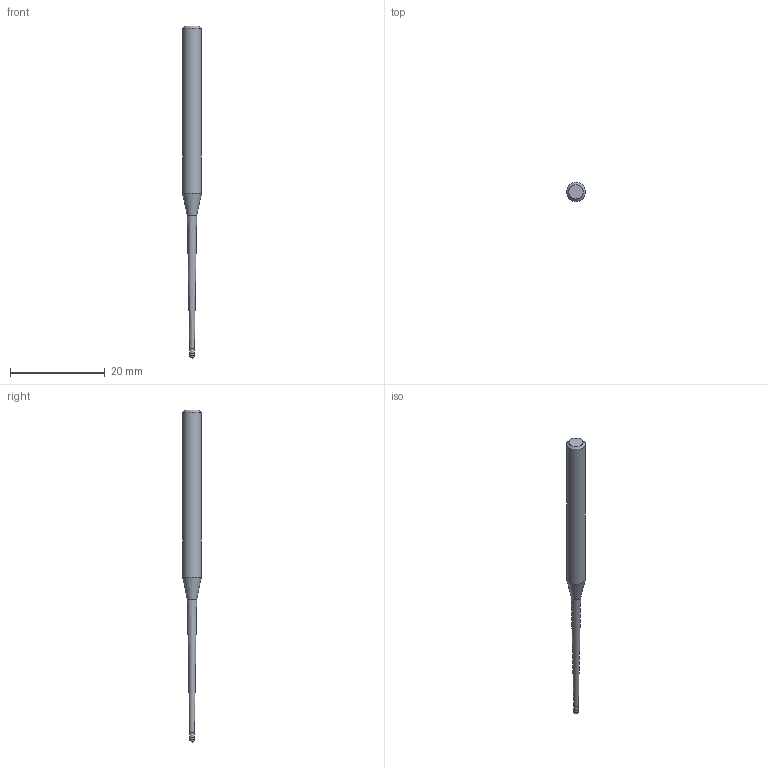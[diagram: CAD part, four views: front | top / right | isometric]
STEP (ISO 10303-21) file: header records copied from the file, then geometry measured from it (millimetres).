
FILE_DESCRIPTION((''),'2;1');
FILE_NAME('C:\Users\nsx150\AppData\Local\Temp\Mastercam 2021\SNAKH10GOD\TEMP.step','2021-10-21T13:32:11',(''),(''),'STEP Write','Mastercam 2021 ... CNC Software, Inc.','');
FILE_SCHEMA(('AUTOMOTIVE_DESIGN'));
Length unit declared in the file: millimetre
Products named in the file (1): None
Bounding box: 4 x 4 x 70 mm (x, y, z)
Volume: 527.7 mm3; surface area: 635.3 mm2
Topology: 2 solids, 2 shells, 10 faces, 16 edges, 9 vertices
Faces by surface type: plane 3, cylinder 3, cone 3, sphere 1
Full cylindrical faces by diameter (mm): 0.985 x1, 1 x1, 4 x1
Entity records: 232 total; most frequent: DIRECTION 40, CARTESIAN_POINT 28, AXIS2_PLACEMENT_3D 20, ORIENTED_EDGE 16, EDGE_LOOP 16, STYLED_ITEM 13, ADVANCED_FACE 10, FACE_BOUND 9
